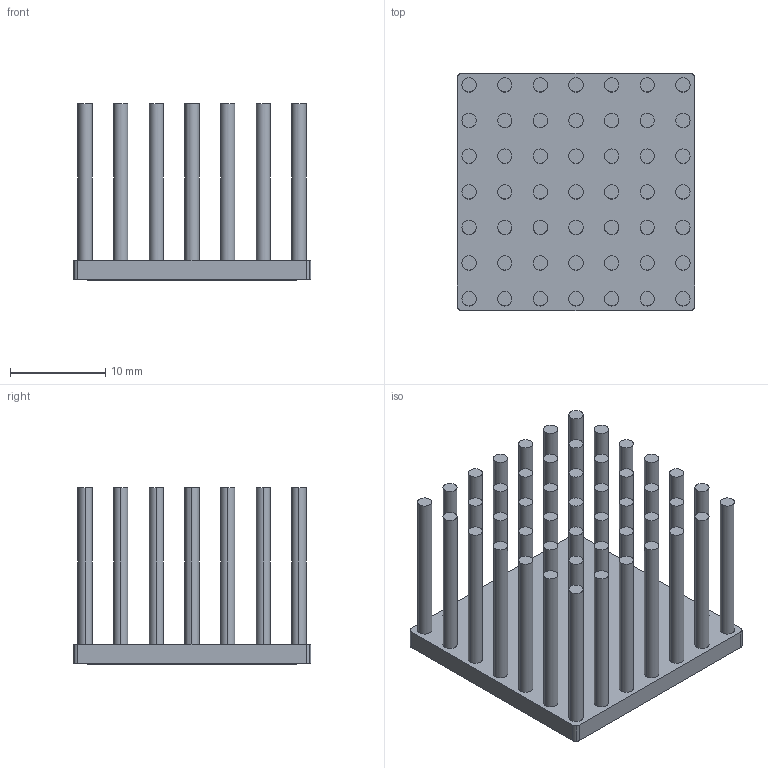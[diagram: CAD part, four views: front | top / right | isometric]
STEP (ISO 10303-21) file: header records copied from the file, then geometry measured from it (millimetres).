
FILE_DESCRIPTION(('STEP AP242'),'1');
FILE_NAME('MHS.PC100.2.stp','2023-05-22T08:14:39',(' '),(' '),'Spatial InterOp 3D',' ',' ');
FILE_SCHEMA(('AP242_MANAGED_MODEL_BASED_3D_ENGINEERING_MIM_LF {1 0 10303 442 1 1 4}'));
Length unit declared in the file: millimetre
Products named in the file (3): MHS.PC100.2; Heatsink; Thermal pads
Assembly tree (2 placements, depth 2):
  MHS.PC100.2
    Heatsink
    Thermal pads
Bounding box: 25 x 25 x 18.6 mm (x, y, z)
Volume: 2726.7 mm3; surface area: 6234.6 mm2
Topology: 2 solids, 2 shells, 167 faces, 342 edges, 228 vertices
Faces by surface type: cylinder 106, plane 61
Entity records: 5925 total; most frequent: DIRECTION 894, CARTESIAN_POINT 740, ORIENTED_EDGE 684, AXIS2_PLACEMENT_3D 382, EDGE_CURVE 342, VERTEX_POINT 228, EDGE_LOOP 216, CIRCLE 212
